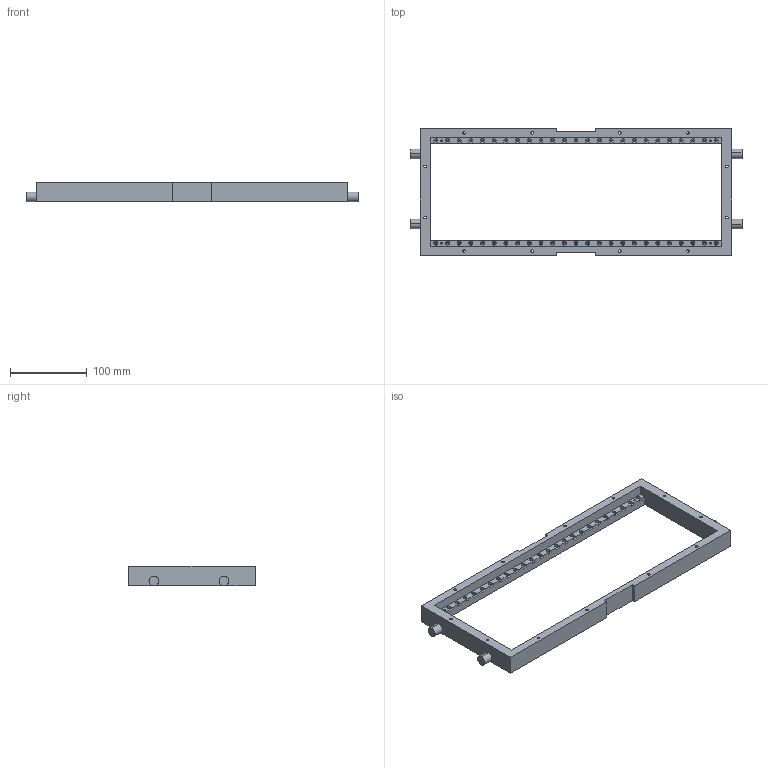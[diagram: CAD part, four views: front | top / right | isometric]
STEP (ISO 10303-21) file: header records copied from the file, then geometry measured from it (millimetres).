
FILE_DESCRIPTION (( 'STEP AP203' ), '1' );
FILE_NAME ('410104451.STEP', '2008-04-18T19:49:52', ( ' ' ), ( ' ' ), 'SwSTEP 2.0', 'SolidWorks 2007', '' );
FILE_SCHEMA (( 'CONFIG_CONTROL_DESIGN' ));
Length unit declared in the file: inch
Products named in the file (1): 410104451
Bounding box: 433.32 x 164.85 x 25.4 mm (x, y, z)
Volume: 383418.4 mm3; surface area: 103963.5 mm2
Topology: 1 solids, 1 shells, 406 faces, 1097 edges, 730 vertices
Faces by surface type: cylinder 264, plane 142
Entity records: 13348 total; most frequent: DIRECTION 2443, CARTESIAN_POINT 2234, ORIENTED_EDGE 2194, EDGE_CURVE 1097, AXIS2_PLACEMENT_3D 939, VERTEX_POINT 730, EDGE_LOOP 577, VECTOR 565
